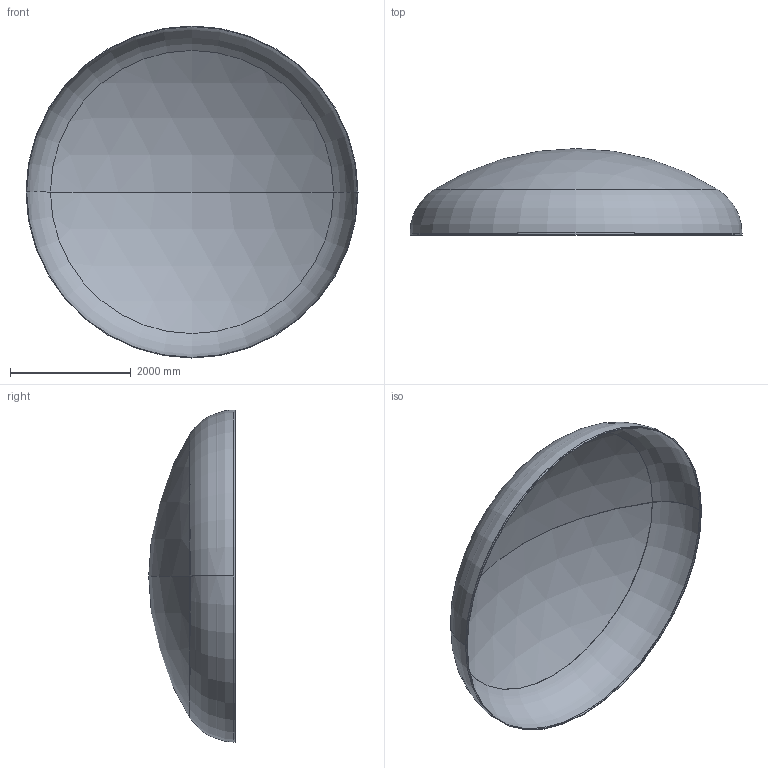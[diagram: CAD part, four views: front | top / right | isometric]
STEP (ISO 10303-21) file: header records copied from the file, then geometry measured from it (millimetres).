
FILE_DESCRIPTION (( 'STEP AP203' ), '1' );
FILE_NAME ('DIN 28013 Korbbogenform_-_Boden DIN 28013 - 5500 x 30 - I - s=10.step', '2016-07-04T10:33:33', ( '' ), ( '' ), 'SwSTEP 2.0', 'SolidWorks 2013', '' );
FILE_SCHEMA (( 'CONFIG_CONTROL_DESIGN' ));
Length unit declared in the file: millimetre
Products named in the file (1): DIN 28013 Korbbogenform_-_Boden DIN 28013 - 5500 x 30 - I - s=10
Bounding box: 5500 x 1432.18 x 5500 mm (x, y, z)
Volume: 333314206.6 mm3; surface area: 66835496.5 mm2
Topology: 1 solids, 1 shells, 13 faces, 24 edges, 14 vertices
Faces by surface type: torus 4, cylinder 4, sphere 4, plane 1
Entity records: 407 total; most frequent: DIRECTION 72, CARTESIAN_POINT 52, ORIENTED_EDGE 48, AXIS2_PLACEMENT_3D 34, EDGE_CURVE 24, CIRCLE 20, VERTEX_POINT 14, EDGE_LOOP 14
